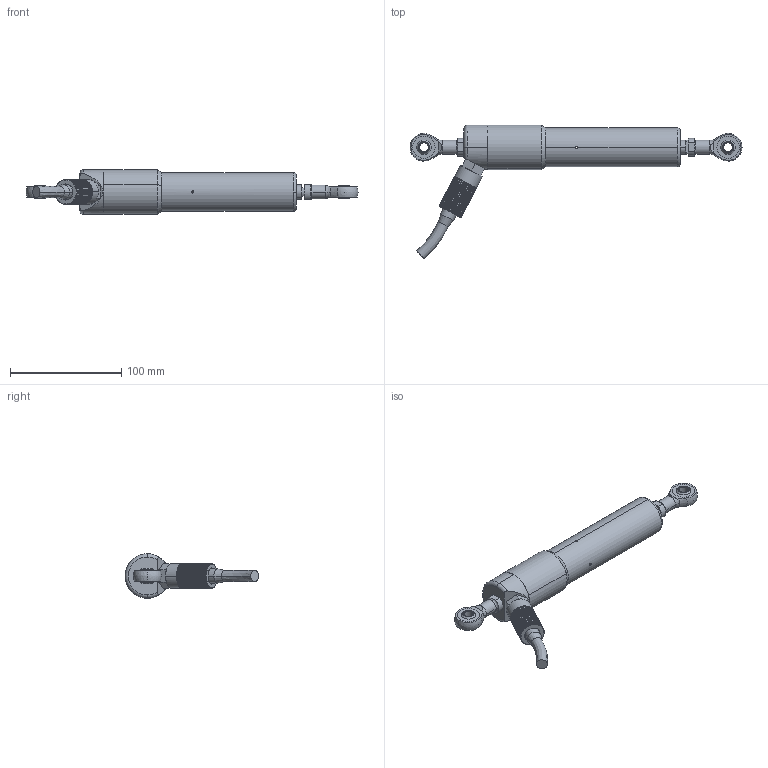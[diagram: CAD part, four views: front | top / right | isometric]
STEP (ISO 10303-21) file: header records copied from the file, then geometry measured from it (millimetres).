
FILE_DESCRIPTION (( 'STEP AP214' ), '1' );
FILE_NAME ('S125-5AK50NU.STEP', '2025-04-10T10:25:38', ( '' ), ( '' ), 'SwSTEP 2.0', 'SolidWorks 2023', '' );
FILE_SCHEMA (( 'AUTOMOTIVE_DESIGN' ));
Length unit declared in the file: millimetre
Products named in the file (1): S125-5AK50NU
Bounding box: 298.25 x 120.28 x 40 mm (x, y, z)
Surface area: 42361 mm2 (no closed solid volume)
Topology: 0 solids, 16 shells, 270 faces, 1049 edges, 704 vertices
Faces by surface type: cylinder 174, plane 45, cone 25, torus 16, sphere 8, bspline 2
Entity records: 13782 total; most frequent: CARTESIAN_POINT 5070, DIRECTION 1901, ORIENTED_EDGE 1749, EDGE_CURVE 1035, AXIS2_PLACEMENT_3D 783, VERTEX_POINT 698, CIRCLE 514, VECTOR 335
